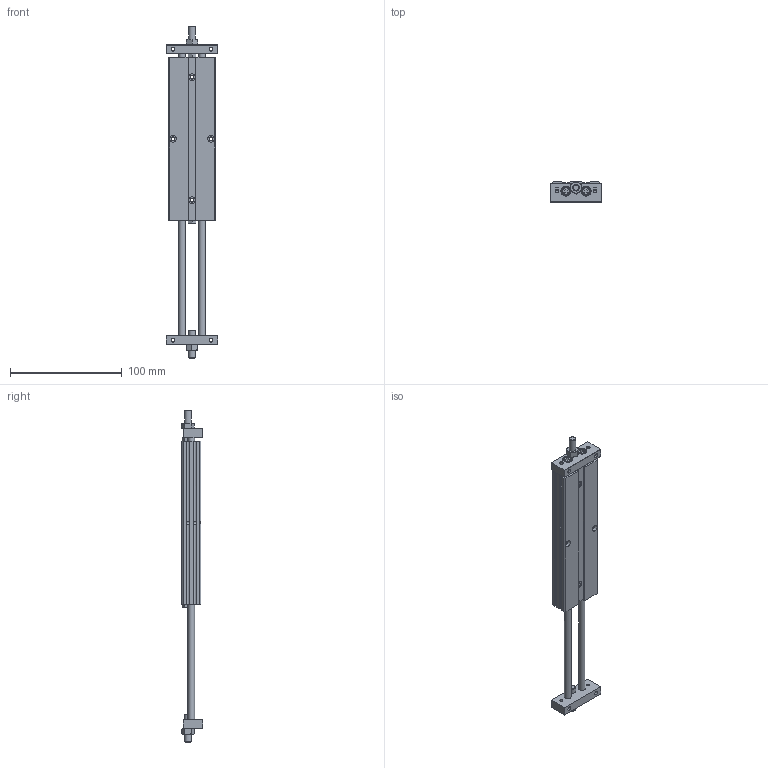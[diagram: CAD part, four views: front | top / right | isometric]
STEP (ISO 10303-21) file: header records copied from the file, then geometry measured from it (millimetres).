
FILE_DESCRIPTION((''),'2;1');
FILE_NAME('J:\3D電子目錄\氣缸\STU\STU\STU10\STU10x100.stp','2009-01-08T10:39:16',('EPM'),(''),'Autodesk Inventor 2008','Autodesk Inventor 2008','');
FILE_SCHEMA(('AUTOMOTIVE_DESIGN { 1 0 10303 214 1 1 1 1 }'));
Length unit declared in the file: millimetre
Products named in the file (1): STU10
Bounding box: 46 x 18.77 x 296.8 mm (x, y, z)
Volume: 109831.2 mm3; surface area: 36409.6 mm2
Topology: 1 solids, 1 shells, 266 faces, 648 edges, 414 vertices
Faces by surface type: plane 134, cone 52, bspline 50, cylinder 26, torus 4
Full cylindrical faces by diameter (mm): 2 x2, 6 x10, 7 x4, 8 x4, 12 x2, 13 x2
Entity records: 8194 total; most frequent: CARTESIAN_POINT 2607, DIRECTION 1074, ORIENTED_EDGE 1066, EDGE_CURVE 533, EDGE_LOOP 428, AXIS2_PLACEMENT_3D 402, VERTEX_POINT 389, VECTOR 270
